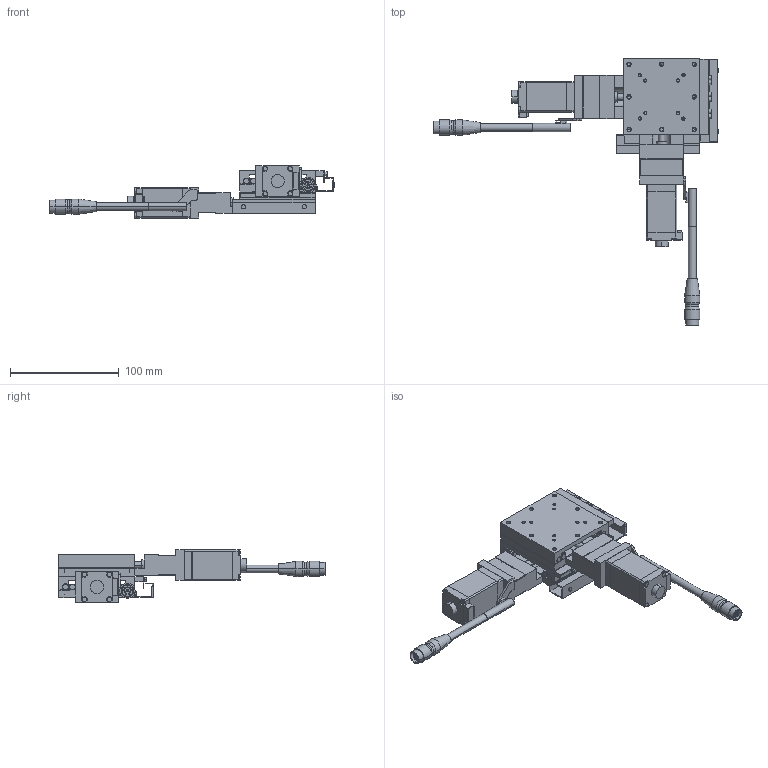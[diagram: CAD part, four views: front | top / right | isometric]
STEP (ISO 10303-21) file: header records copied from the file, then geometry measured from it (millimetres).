
FILE_DESCRIPTION(('STEP AP203'),'1');
FILE_NAME('C:/3D-Trans/3D_PMG715T-L□-D+240122.step','2024-03-14T04:39:44',(' '),(' '),'Spatial InterOp 3D',' ',' ');
FILE_SCHEMA(('CONFIG_CONTROL_DESIGN'));
Length unit declared in the file: millimetre
Products named in the file (12): 1; 2; 3; 4; 5; 6; 7; 8; 9; 10; 11; 12
Bounding box: 262.4 x 245 x 48 mm (x, y, z)
Volume: 302596.8 mm3; surface area: 125812.7 mm2
Topology: 12 solids, 12 shells, 1336 faces, 3348 edges, 2116 vertices
Faces by surface type: plane 730, cylinder 442, cone 164
Entity records: 40180 total; most frequent: DIRECTION 7104, CARTESIAN_POINT 6784, ORIENTED_EDGE 6616, EDGE_CURVE 3308, AXIS2_PLACEMENT_3D 2452, LINE 2200, VECTOR 2200, VERTEX_POINT 2116
